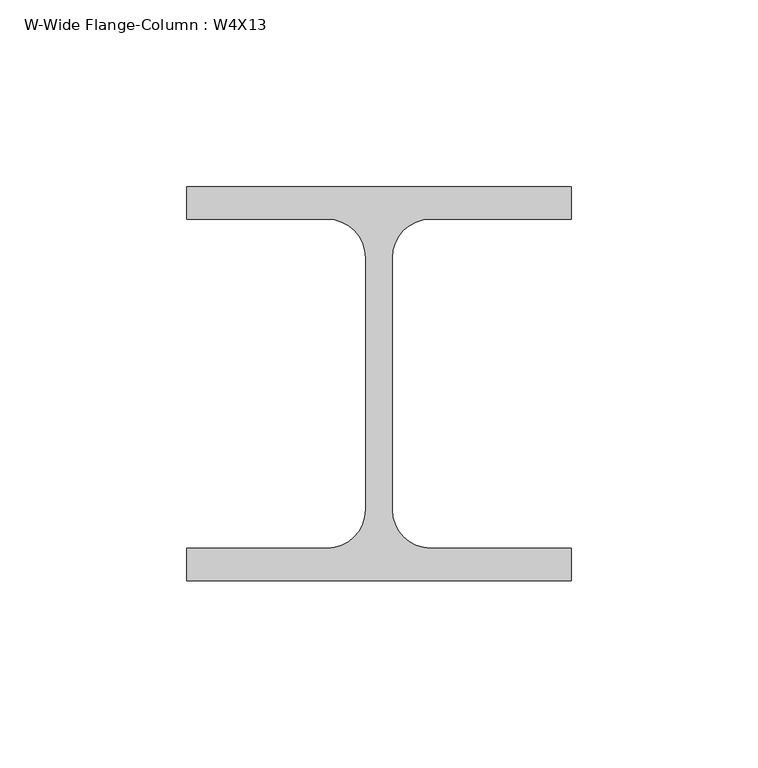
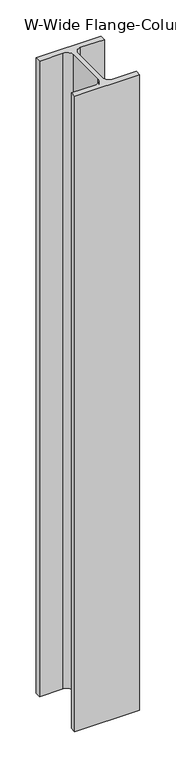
"""IFC4 building model written with IfcOpenShell, lengths in millimetres: column geometry, W-Wide Flange-Column : W4X13."""

from ifc_helpers import new_model, si_unit, point, frame, frame_2d, origin, place, context, project, spatial, polyline, circle_curve, trimmed, segment, composite_curve, outline, extrude, source, transform, mapped, element, save


def w_wide_flange_column_w4x13_0bc8af57(model_context):
    return source(origin(), model_context, "Body", "SweptSolid", [
        extrude(outline(composite_curve([segment(polyline([(51.562, 52.832), (51.562, 44.069), (13.843, 44.069)]), True, "CONTINUOUS"), segment(trimmed(circle_curve(frame_2d((13.843, 33.782)), 10.287), [point((13.843, 44.069))], [point((3.556, 33.782))], True, "CARTESIAN"), True, "CONTINUOUS"), segment(polyline([(3.556, 33.782), (3.556, -33.782)]), True, "CONTINUOUS"), segment(trimmed(circle_curve(frame_2d((13.843, -33.782)), 10.287), [point((3.556, -33.782))], [point((13.843, -44.069))], True, "CARTESIAN"), True, "CONTINUOUS"), segment(polyline([(13.843, -44.069), (51.562, -44.069), (51.562, -52.832), (-51.562, -52.832), (-51.562, -44.069), (-13.843, -44.069)]), True, "CONTINUOUS"), segment(trimmed(circle_curve(frame_2d((-13.843, -33.782)), 10.287), [point((-13.843, -44.069))], [point((-3.556, -33.782))], True, "CARTESIAN"), True, "CONTINUOUS"), segment(polyline([(-3.556, -33.782), (-3.556, 33.782)]), True, "CONTINUOUS"), segment(trimmed(circle_curve(frame_2d((-13.843, 33.782)), 10.287), [point((-3.556, 33.782))], [point((-13.843, 44.069))], True, "CARTESIAN"), True, "CONTINUOUS"), segment(polyline([(-13.843, 44.069), (-51.562, 44.069), (-51.562, 52.832), (51.562, 52.832)]), True, "CONTINUOUS")], self_intersect=False)), frame((0.0, 0.0, 3505.2), z_axis=(0.0, 0.0, 1.0), x_axis=(1.0, 0.0, 0.0)), (0.0, 0.0, 1.0), 1066.8),
    ])


if __name__ == "__main__":
    model = new_model("IFC4")
    model_context = context("Model", 3, world=origin())
    ifc_project = project(units=[si_unit("LENGTHUNIT", "METRE", prefix="MILLI")], contexts=[model_context])
    site = spatial("IfcSite", under=ifc_project)
    building = spatial("IfcBuilding", under=site)
    placement = place(None, origin())
    w_wide_flange_column_w4x13_shape = w_wide_flange_column_w4x13_0bc8af57(model_context)
    element("IfcColumn", 1, ObjectType="W-Wide Flange-Column : W4X13", at=placement, inside=building, context=model_context, shape_type="MappedRepresentation", body=[
        mapped(w_wide_flange_column_w4x13_shape, transform((0.0, 0.0, 0.0), x_axis=(1.0, 0.0, 0.0), y_axis=(0.0, 1.0, 0.0), z_axis=(0.0, 0.0, 1.0))),
    ])
    save(model, "model.ifc")
